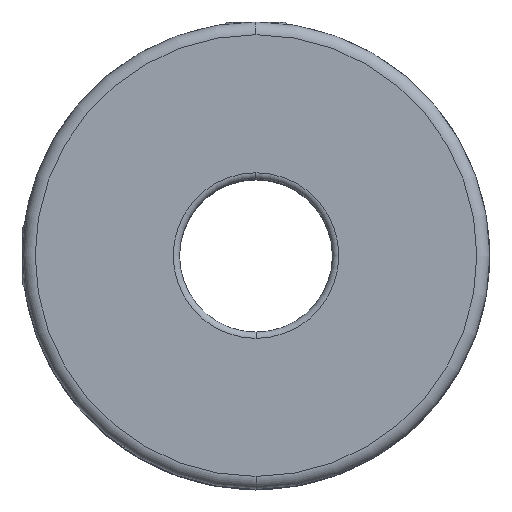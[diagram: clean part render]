
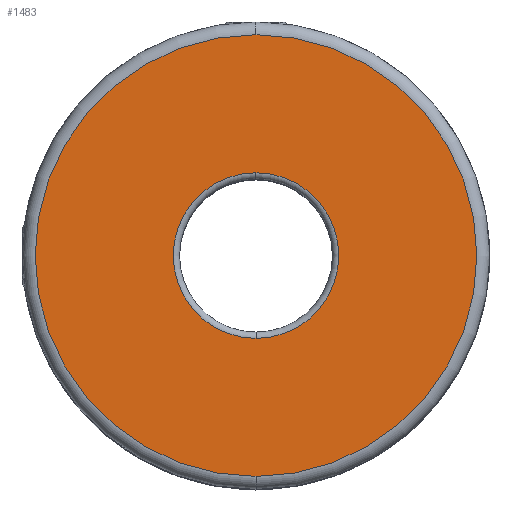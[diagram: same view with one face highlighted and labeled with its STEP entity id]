
A CAD part, top view. The second image highlights one B-rep face of the part: STEP entity #1483.
In plain terms, the highlighted planar face has unit normal (0, 0, 1).
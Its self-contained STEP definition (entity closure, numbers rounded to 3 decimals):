
#14 = CARTESIAN_POINT ( 'NONE',  ( -1.172, -22.326, 42.541 ) ) ;
#68 = ORIENTED_EDGE ( 'NONE', *, *, #241, .T. ) ;
#88 = AXIS2_PLACEMENT_3D ( 'NONE', #2329, #5587, #2801 ) ;
#210 = DIRECTION ( 'NONE',  ( 0., 0., -1. ) ) ;
#241 = EDGE_CURVE ( 'NONE', #6069, #5203, #2105, .T. ) ;
#332 = EDGE_CURVE ( 'NONE', #1618, #4076, #1517, .T. ) ;
#334 = DIRECTION ( 'NONE',  ( 0., 0., 1. ) ) ;
#850 = CIRCLE ( 'NONE', #88, 26. ) ;
#852 = DIRECTION ( 'NONE',  ( 0., 0., -1. ) ) ;
#888 = CARTESIAN_POINT ( 'NONE',  ( -1.172, -6.076, 42.541 ) ) ;
#1142 = FACE_BOUND ( 'NONE', #2462, .T. ) ;
#1167 = AXIS2_PLACEMENT_3D ( 'NONE', #5153, #4689, #3731 ) ;
#1483 = ADVANCED_FACE ( 'NONE', ( #1142, #4884 ), #2718, .F. ) ;
#1517 = CIRCLE ( 'NONE', #1167, 9.75 ) ;
#1541 = EDGE_CURVE ( 'NONE', #5203, #6069, #850, .T. ) ;
#1613 = ORIENTED_EDGE ( 'NONE', *, *, #1541, .T. ) ;
#1618 = VERTEX_POINT ( 'NONE', #888 ) ;
#1889 = CIRCLE ( 'NONE', #3588, 9.75 ) ;
#1999 = ORIENTED_EDGE ( 'NONE', *, *, #6057, .T. ) ;
#2105 = CIRCLE ( 'NONE', #3467, 26. ) ;
#2174 = EDGE_LOOP ( 'NONE', ( #68, #1613 ) ) ;
#2329 = CARTESIAN_POINT ( 'NONE',  ( -1.172, 3.674, 42.541 ) ) ;
#2462 = EDGE_LOOP ( 'NONE', ( #5216, #1999 ) ) ;
#2595 = CARTESIAN_POINT ( 'NONE',  ( -1.172, 29.674, 42.541 ) ) ;
#2718 = PLANE ( 'NONE',  #5837 ) ;
#2801 = DIRECTION ( 'NONE',  ( 0., -1., 0. ) ) ;
#2996 = CARTESIAN_POINT ( 'NONE',  ( -1.172, 3.674, 42.541 ) ) ;
#3461 = DIRECTION ( 'NONE',  ( 0., -1., 0. ) ) ;
#3467 = AXIS2_PLACEMENT_3D ( 'NONE', #4052, #334, #4530 ) ;
#3588 = AXIS2_PLACEMENT_3D ( 'NONE', #2996, #210, #3461 ) ;
#3731 = DIRECTION ( 'NONE',  ( 0., -1., 0. ) ) ;
#4052 = CARTESIAN_POINT ( 'NONE',  ( -1.172, 3.674, 42.541 ) ) ;
#4076 = VERTEX_POINT ( 'NONE', #4291 ) ;
#4129 = DIRECTION ( 'NONE',  ( 0., -1., 0. ) ) ;
#4291 = CARTESIAN_POINT ( 'NONE',  ( -1.172, 13.424, 42.541 ) ) ;
#4530 = DIRECTION ( 'NONE',  ( 0., -1., 0. ) ) ;
#4689 = DIRECTION ( 'NONE',  ( 0., 0., -1. ) ) ;
#4884 = FACE_OUTER_BOUND ( 'NONE', #2174, .T. ) ;
#5025 = CARTESIAN_POINT ( 'NONE',  ( -1.172, 3.674, 42.541 ) ) ;
#5153 = CARTESIAN_POINT ( 'NONE',  ( -1.172, 3.674, 42.541 ) ) ;
#5203 = VERTEX_POINT ( 'NONE', #2595 ) ;
#5216 = ORIENTED_EDGE ( 'NONE', *, *, #332, .T. ) ;
#5587 = DIRECTION ( 'NONE',  ( 0., 0., 1. ) ) ;
#5837 = AXIS2_PLACEMENT_3D ( 'NONE', #5025, #852, #4129 ) ;
#6057 = EDGE_CURVE ( 'NONE', #4076, #1618, #1889, .T. ) ;
#6069 = VERTEX_POINT ( 'NONE', #14 ) ;
